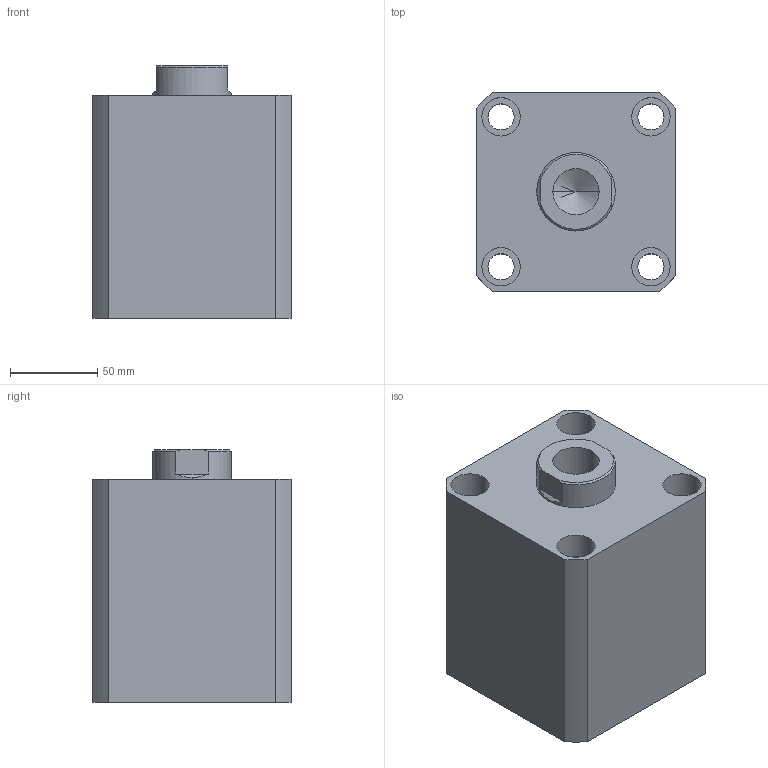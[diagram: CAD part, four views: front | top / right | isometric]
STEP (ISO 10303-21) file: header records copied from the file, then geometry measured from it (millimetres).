
FILE_DESCRIPTION (( 'STEP AP203' ), '1' );
FILE_NAME ('HTB-SDMB80-50N.STEP', '2019-10-09T06:05:51', ( '微软用户' ), ( '微软中国' ), 'SwSTEP 2.0', 'SolidWorks 2012', '' );
FILE_SCHEMA (( 'CONFIG_CONTROL_DESIGN' ));
Length unit declared in the file: millimetre
Products named in the file (3): HTB-SDMB80-50掛极; HTB-SDMB80-50N活塞杆; HTB-SDMB80-50N
Assembly tree (2 placements, depth 2):
  HTB-SDMB80-50N
    HTB-SDMB80-50掛极
    HTB-SDMB80-50N活塞杆
Bounding box: 114 x 114 x 145 mm (x, y, z)
Volume: 1359681 mm3; surface area: 173904.8 mm2
Topology: 2 solids, 2 shells, 137 faces, 331 edges, 217 vertices
Faces by surface type: plane 65, cylinder 46, bspline 16, torus 6, cone 4
Entity records: 5070 total; most frequent: CARTESIAN_POINT 1576, ORIENTED_EDGE 658, DIRECTION 647, EDGE_CURVE 329, AXIS2_PLACEMENT_3D 232, VERTEX_POINT 217, LINE 183, VECTOR 183
